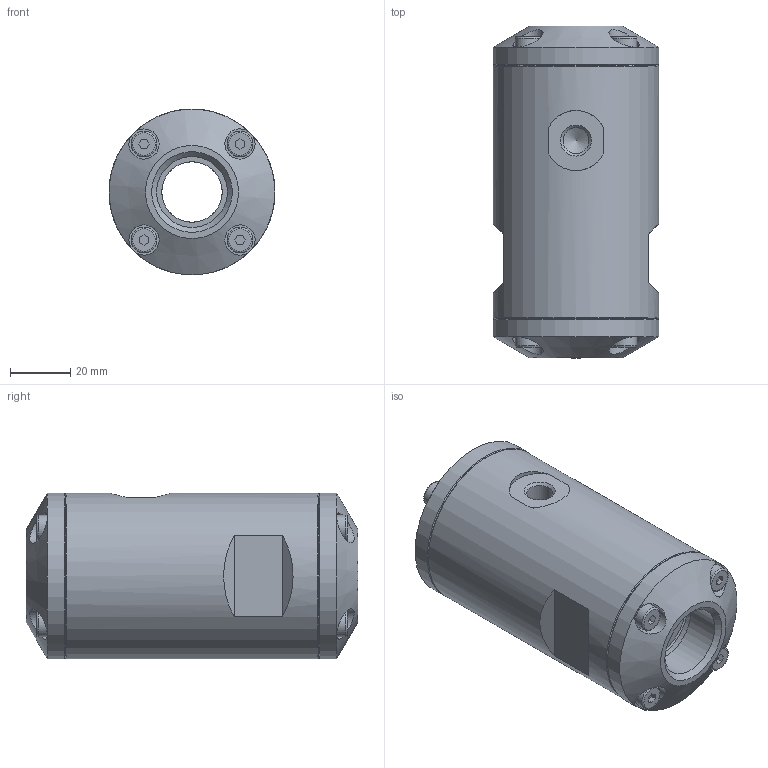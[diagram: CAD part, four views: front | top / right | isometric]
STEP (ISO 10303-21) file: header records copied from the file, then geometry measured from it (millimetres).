
FILE_DESCRIPTION(/* description */ (''),/* implementation_level */ '2;1');
FILE_NAME(/* name */ 'Serie80_QV20_assembly_VEREINFACHT.stp',/* time_stamp */ '2013-10-21T17:07:34+02:00',/* author */ (''),/* organization */ (''),/* preprocessor_version */ 'ST-DEVELOPER v11',/* originating_system */ 'SIEMENS PLM Software NX 7.5',/* authorisation */ '');
FILE_SCHEMA (('AUTOMOTIVE_DESIGN { 1 0 10303 214 1 1 1 1 }'));
Length unit declared in the file: millimetre
Products named in the file (1): memdFD780wgh
Bounding box: 55 x 110 x 55 mm (x, y, z)
Volume: 204617.8 mm3; surface area: 53613.5 mm2
Topology: 27 solids, 27 shells, 302 faces, 602 edges, 384 vertices
Faces by surface type: plane 145, cylinder 97, torus 30, cone 30
Full cylindrical faces by diameter (mm): 4.13 x16, 4.2 x8, 5 x24, 5.2 x8, 5.4 x8, 8.5 x8, 8.611 x1, 10 x8, 20 x3, 23.416 x2, 27.9 x2, 50.8 x2, 51 x2, 55 x3
Entity records: 7005 total; most frequent: DIRECTION 1238, CARTESIAN_POINT 1196, ORIENTED_EDGE 794, AXIS2_PLACEMENT_3D 542, EDGE_LOOP 518, FACE_BOUND 431, EDGE_CURVE 397, VERTEX_POINT 336
